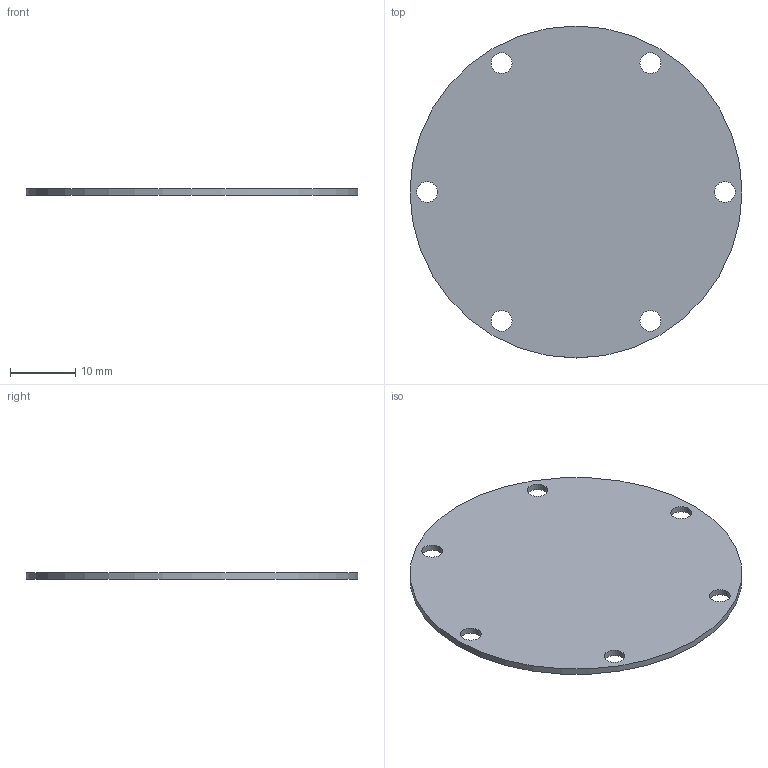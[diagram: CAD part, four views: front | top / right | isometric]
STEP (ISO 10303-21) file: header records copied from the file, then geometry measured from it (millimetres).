
FILE_DESCRIPTION(('FreeCAD Model'),'2;1');
FILE_NAME('Open CASCADE Shape Model','2025-01-12T22:08:27',(''),(''), 'Open CASCADE STEP processor 7.6','FreeCAD','Unknown');
FILE_SCHEMA(('CONFIG_CONTROL_DESIGN','SHAPE_APPEARANCE_LAYER_MIM'));
Length unit declared in the file: millimetre
Products named in the file (1): Al2O3_Insulator
Bounding box: 51 x 51 x 1 mm (x, y, z)
Volume: 1994.6 mm3; surface area: 4209.7 mm2
Topology: 1 solids, 1 shells, 9 faces, 21 edges, 14 vertices
Faces by surface type: cylinder 7, plane 2
Full cylindrical faces by diameter (mm): 3.2 x6, 51 x1
Entity records: 345 total; most frequent: DIRECTION 55, CARTESIAN_POINT 45, ORIENTED_EDGE 42, AXIS2_PLACEMENT_3D 24, FACE_BOUND 21, EDGE_LOOP 21, EDGE_CURVE 21, VERTEX_POINT 14
